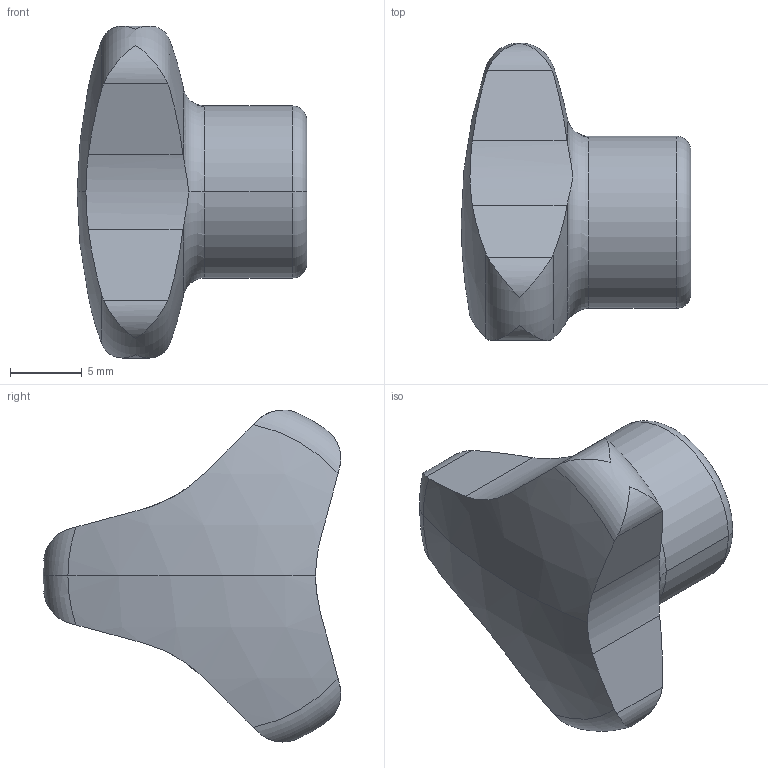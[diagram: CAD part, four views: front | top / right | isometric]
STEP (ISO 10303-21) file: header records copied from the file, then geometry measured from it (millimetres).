
FILE_DESCRIPTION (( 'STEP AP214' ), '1' );
FILE_NAME ('5345-25-M5-E.step', '2019-06-13T08:48:27', ( 'user' ), ( '' ), 'SwSTEP 2.0', 'SolidWorks 2019', '' );
FILE_SCHEMA (( 'AUTOMOTIVE_DESIGN' ));
Length unit declared in the file: millimetre
Products named in the file (1): 5345-25-M5-E
Bounding box: 16 x 20.74 x 23.14 mm (x, y, z)
Volume: 2514.7 mm3; surface area: 1396.1 mm2
Topology: 1 solids, 1 shells, 40 faces, 109 edges, 71 vertices
Faces by surface type: cylinder 16, torus 8, plane 8, sphere 6, cone 2
Entity records: 1507 total; most frequent: CARTESIAN_POINT 481, ORIENTED_EDGE 214, DIRECTION 195, EDGE_CURVE 107, AXIS2_PLACEMENT_3D 87, VERTEX_POINT 71, CIRCLE 46, EDGE_LOOP 42
